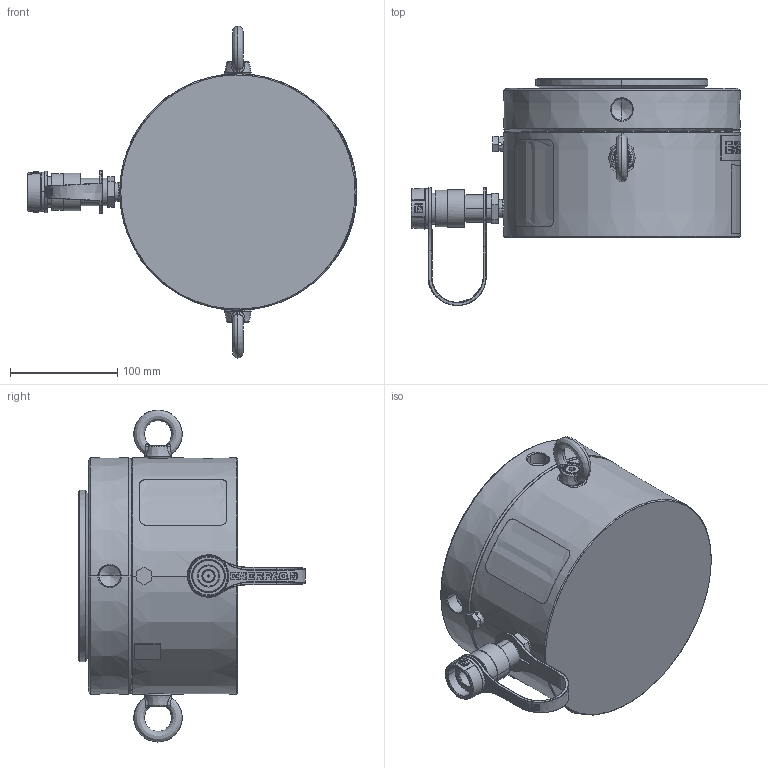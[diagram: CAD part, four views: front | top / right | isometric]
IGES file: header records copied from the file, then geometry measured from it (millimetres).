
Start section:  PTC IGES file: lpl1602.igs
Global section: file name: lpl1602.igs; native system: Creo Parametric by PTC Inc.; preprocessor: 2015290; author: Akhilesh.Subrahmanya; organization: Unknown; date: 20170720.133320; units: millimetre
Bounding box: 306.87 x 211.27 x 309 mm (x, y, z)
Surface area: 306457.9 mm2 (no closed solid volume)
Topology: 0 solids, 0 shells, 556 faces, 3167 edges, 3155 vertices
Faces by surface type: bspline 283, revolution 254, extrusion 19
